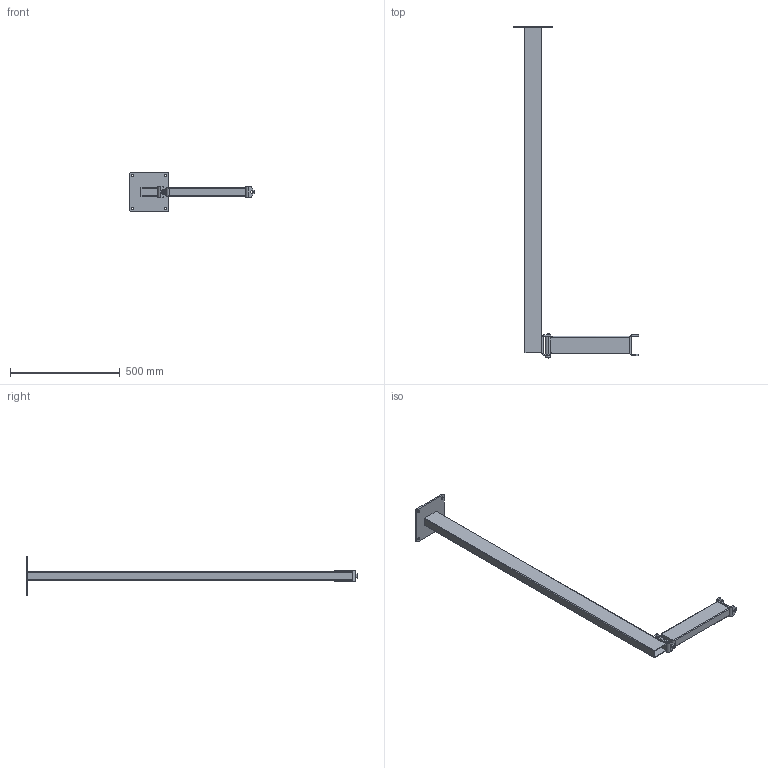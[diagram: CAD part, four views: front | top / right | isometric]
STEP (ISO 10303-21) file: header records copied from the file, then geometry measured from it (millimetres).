
FILE_DESCRIPTION((''),'2;1');
FILE_NAME('PTX_180-1500','2022-02-10T11:54:35',('Tomas Bellgran'),(''),'CREO PARAMETRIC BY PTC INC, 2018260','CREO PARAMETRIC BY PTC INC, 2018260','');
FILE_SCHEMA(('AUTOMOTIVE_DESIGN { 1 0 10303 214 1 1 1 1 }'));
Length unit declared in the file: millimetre
Products named in the file (8): 100-6315-1; 143253; 100-6300-03; 137388; PTX_180_ARM; 100-6306; 9908480; PTX_180-1500
Assembly tree (7 placements, depth 3):
  PTX_180-1500
    137388
      100-6315-1
      143253
      100-6300-03
    PTX_180_ARM
    100-6306
    9908480
Bounding box: 570.5 x 1511.5 x 180 mm (x, y, z)
Volume: 2524374.1 mm3; surface area: 872402.3 mm2
Topology: 7 solids, 9 shells, 168 faces, 425 edges, 271 vertices
Faces by surface type: plane 75, cylinder 72, cone 14, torus 5, sphere 2
Entity records: 11658 total; most frequent: CARTESIAN_POINT 3878, DIRECTION 1051, ORIENTED_EDGE 838, EDGE_CURVE 423, AXIS2_PLACEMENT_3D 404, PROPERTY_DEFINITION 379, REPRESENTATION 368, PROPERTY_DEFINITION_REPRESENTATION 368
